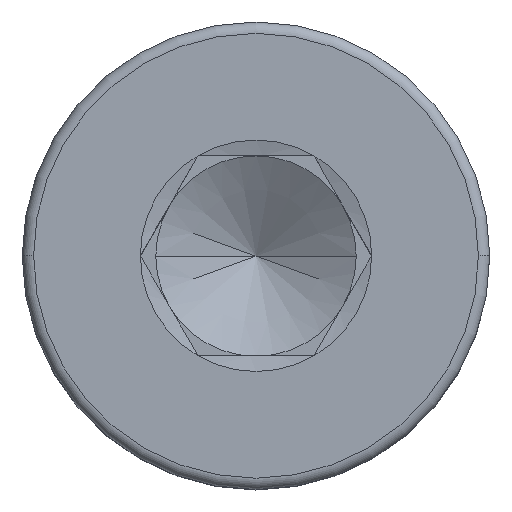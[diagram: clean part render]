
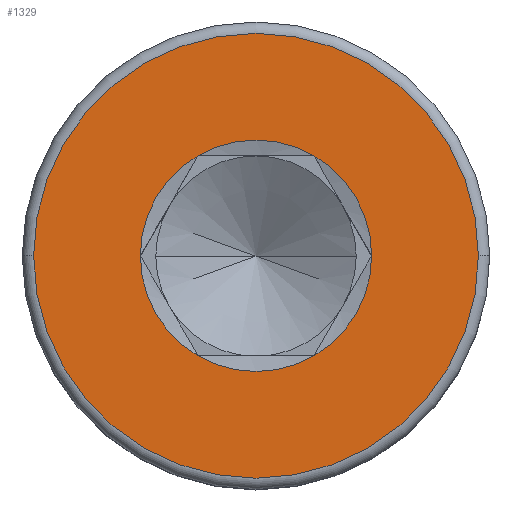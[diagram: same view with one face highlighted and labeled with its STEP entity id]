
A CAD part, top view. The second image highlights one B-rep face of the part: STEP entity #1329.
In plain terms, the highlighted planar face has unit normal (0, 0, 1).
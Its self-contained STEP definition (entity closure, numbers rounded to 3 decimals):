
#40 = ORIENTED_EDGE ( 'NONE', *, *, #882, .F. ) ;
#77 = EDGE_CURVE ( 'NONE', #1050, #1555, #333, .T. ) ;
#92 = CARTESIAN_POINT ( 'NONE',  ( 0., 0., 4. ) ) ;
#96 = VERTEX_POINT ( 'NONE', #1421 ) ;
#105 = AXIS2_PLACEMENT_3D ( 'NONE', #1190, #757, #1315 ) ;
#130 = CARTESIAN_POINT ( 'NONE',  ( 0., 0., 4. ) ) ;
#145 = ORIENTED_EDGE ( 'NONE', *, *, #1137, .T. ) ;
#154 = ORIENTED_EDGE ( 'NONE', *, *, #1784, .F. ) ;
#159 = DIRECTION ( 'NONE',  ( 0., 0., 1. ) ) ;
#225 = DIRECTION ( 'NONE',  ( 0., 0., 1. ) ) ;
#245 = VERTEX_POINT ( 'NONE', #1613 ) ;
#272 = VERTEX_POINT ( 'NONE', #527 ) ;
#290 = EDGE_CURVE ( 'NONE', #1475, #355, #1566, .T. ) ;
#300 = FACE_BOUND ( 'NONE', #1247, .T. ) ;
#333 = CIRCLE ( 'NONE', #1347, 1.732 ) ;
#335 = CARTESIAN_POINT ( 'NONE',  ( -0.866, -1.5, 4. ) ) ;
#344 = EDGE_CURVE ( 'NONE', #96, #1475, #1634, .T. ) ;
#347 = AXIS2_PLACEMENT_3D ( 'NONE', #749, #1694, #1709 ) ;
#355 = VERTEX_POINT ( 'NONE', #1440 ) ;
#358 = CIRCLE ( 'NONE', #937, 3.33 ) ;
#497 = EDGE_LOOP ( 'NONE', ( #1357, #145 ) ) ;
#527 = CARTESIAN_POINT ( 'NONE',  ( 3.33, 0., 4. ) ) ;
#609 = AXIS2_PLACEMENT_3D ( 'NONE', #854, #159, #992 ) ;
#629 = EDGE_CURVE ( 'NONE', #272, #761, #1087, .T. ) ;
#648 = CARTESIAN_POINT ( 'NONE',  ( 0., 0., 4. ) ) ;
#708 = FACE_OUTER_BOUND ( 'NONE', #497, .T. ) ;
#749 = CARTESIAN_POINT ( 'NONE',  ( 0., 0., 4. ) ) ;
#754 = DIRECTION ( 'NONE',  ( 1., 0., 0. ) ) ;
#757 = DIRECTION ( 'NONE',  ( 0., 0., 1. ) ) ;
#761 = VERTEX_POINT ( 'NONE', #1018 ) ;
#783 = DIRECTION ( 'NONE',  ( 1., 0., 0. ) ) ;
#821 = AXIS2_PLACEMENT_3D ( 'NONE', #1269, #1404, #1149 ) ;
#852 = AXIS2_PLACEMENT_3D ( 'NONE', #92, #905, #754 ) ;
#854 = CARTESIAN_POINT ( 'NONE',  ( 0., 0., 4. ) ) ;
#882 = EDGE_CURVE ( 'NONE', #355, #1050, #1518, .T. ) ;
#905 = DIRECTION ( 'NONE',  ( 0., 0., 1. ) ) ;
#917 = AXIS2_PLACEMENT_3D ( 'NONE', #648, #225, #783 ) ;
#937 = AXIS2_PLACEMENT_3D ( 'NONE', #1567, #1209, #1761 ) ;
#974 = PLANE ( 'NONE',  #609 ) ;
#992 = DIRECTION ( 'NONE',  ( 1., 0., 0. ) ) ;
#1018 = CARTESIAN_POINT ( 'NONE',  ( -3.33, 0., 4. ) ) ;
#1026 = CIRCLE ( 'NONE', #852, 1.732 ) ;
#1049 = EDGE_CURVE ( 'NONE', #1555, #245, #1026, .T. ) ;
#1050 = VERTEX_POINT ( 'NONE', #1333 ) ;
#1087 = CIRCLE ( 'NONE', #821, 3.33 ) ;
#1118 = DIRECTION ( 'NONE',  ( 0., 0., 1. ) ) ;
#1123 = CIRCLE ( 'NONE', #347, 1.732 ) ;
#1137 = EDGE_CURVE ( 'NONE', #761, #272, #358, .T. ) ;
#1149 = DIRECTION ( 'NONE',  ( 1., 0., 0. ) ) ;
#1159 = ORIENTED_EDGE ( 'NONE', *, *, #77, .F. ) ;
#1190 = CARTESIAN_POINT ( 'NONE',  ( 0., 0., 4. ) ) ;
#1209 = DIRECTION ( 'NONE',  ( 0., 0., 1. ) ) ;
#1222 = DIRECTION ( 'NONE',  ( 1., 0., 0. ) ) ;
#1247 = EDGE_LOOP ( 'NONE', ( #1708, #154, #1465, #1159, #40, #1296 ) ) ;
#1269 = CARTESIAN_POINT ( 'NONE',  ( 0., 0., 4. ) ) ;
#1296 = ORIENTED_EDGE ( 'NONE', *, *, #290, .F. ) ;
#1299 = CARTESIAN_POINT ( 'NONE',  ( 0.866, 1.5, 4. ) ) ;
#1315 = DIRECTION ( 'NONE',  ( 1., 0., 0. ) ) ;
#1329 = ADVANCED_FACE ( 'NONE', ( #708, #300 ), #974, .T. ) ;
#1333 = CARTESIAN_POINT ( 'NONE',  ( -1.732, 0., 4. ) ) ;
#1336 = CARTESIAN_POINT ( 'NONE',  ( 0., 0., 4. ) ) ;
#1347 = AXIS2_PLACEMENT_3D ( 'NONE', #130, #1118, #1222 ) ;
#1357 = ORIENTED_EDGE ( 'NONE', *, *, #629, .T. ) ;
#1404 = DIRECTION ( 'NONE',  ( 0., 0., 1. ) ) ;
#1421 = CARTESIAN_POINT ( 'NONE',  ( 1.732, 0., 4. ) ) ;
#1440 = CARTESIAN_POINT ( 'NONE',  ( -0.866, 1.5, 4. ) ) ;
#1465 = ORIENTED_EDGE ( 'NONE', *, *, #1049, .F. ) ;
#1475 = VERTEX_POINT ( 'NONE', #1299 ) ;
#1479 = DIRECTION ( 'NONE',  ( 1., 0., 0. ) ) ;
#1489 = AXIS2_PLACEMENT_3D ( 'NONE', #1336, #1720, #1479 ) ;
#1518 = CIRCLE ( 'NONE', #917, 1.732 ) ;
#1555 = VERTEX_POINT ( 'NONE', #335 ) ;
#1566 = CIRCLE ( 'NONE', #1489, 1.732 ) ;
#1567 = CARTESIAN_POINT ( 'NONE',  ( 0., 0., 4. ) ) ;
#1613 = CARTESIAN_POINT ( 'NONE',  ( 0.866, -1.5, 4. ) ) ;
#1634 = CIRCLE ( 'NONE', #105, 1.732 ) ;
#1694 = DIRECTION ( 'NONE',  ( 0., 0., 1. ) ) ;
#1708 = ORIENTED_EDGE ( 'NONE', *, *, #344, .F. ) ;
#1709 = DIRECTION ( 'NONE',  ( 1., 0., 0. ) ) ;
#1720 = DIRECTION ( 'NONE',  ( 0., 0., 1. ) ) ;
#1761 = DIRECTION ( 'NONE',  ( 1., 0., 0. ) ) ;
#1784 = EDGE_CURVE ( 'NONE', #245, #96, #1123, .T. ) ;
